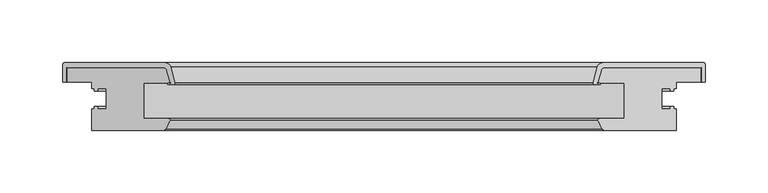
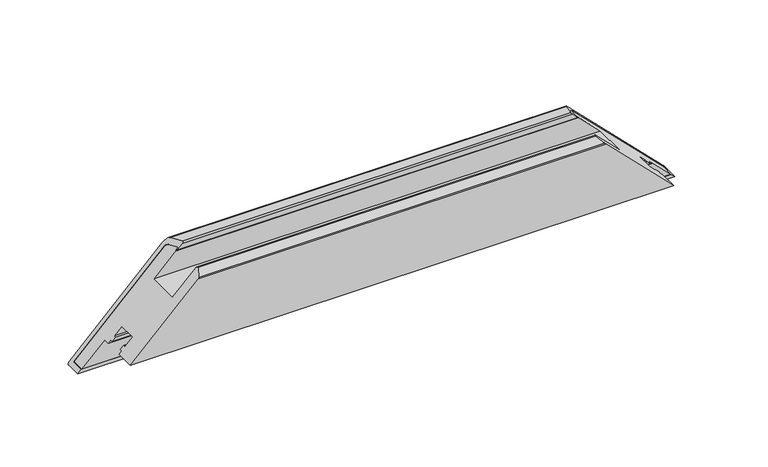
"""IFC4 building model written with IfcOpenShell, lengths in millimetres: proxy geometry, Weiku - Montante - Folha 02.2.01.018 : Weiku - Montante - Folha 02.2.01.018."""

from ifc_helpers import new_model, si_unit, frame, origin, place, context, project, spatial, polyline, ellipse_curve, source, transform, mapped, element, save
from ifc_brep_helpers import plane_surface, cylinder_surface, revolved_surface, advanced_brep


def generic_models_db991731(model_context):
    return source(origin(), model_context, "Body", "AdvancedBrep", [
        advanced_brep(
        [(253.0, 50.0, 0.0), (175.9997332, 50.0, 77.0002668), (-175.9997332, 50.0, 77.0002668), (-253.0, 50.0, 0.0), (173.1019557, 47.7764571, 79.8980443), (-173.1019557, 47.7764571, 79.8980443), (170.5170371, 38.1294095, 82.4829629), (-170.5170371, 38.1294095, 82.4829629), (171.0, 37.5, 82.0), (-171.0, 37.5, 82.0), (171.8560102, 37.5, 81.1439898), (-171.8560102, 37.5, 81.1439898), (171.8560102, 36.5, 81.1439898), (-171.8560102, 36.5, 81.1439898), (167.2425588, 36.5, 85.7574412), (-167.2425588, 36.5, 85.7574412), (166.2766329, 37.758819, 86.7233671), (-166.2766329, 37.758819, 86.7233671), (169.6354501, 50.2940952, 83.3645499), (-169.6354501, 50.2940952, 83.3645499), (174.4650792, 54.0, 78.5349208), (-174.4650792, 54.0, 78.5349208), (254.0, 54.0, -1.0), (-254.0, 54.0, -1.0), (256.0, 52.0, -3.0), (-256.0, 52.0, -3.0), (256.0, 38.5, -3.0), (-256.0, 38.5, -3.0), (253.0, 38.5, 0.0), (-253.0, 38.5, 0.0)],
        [
            (0, 1),
            (1, 2),
            (2, 3),
            (3, 0),
            (1, 4, ellipse_curve(frame((175.9997332, 47.0, 77.0002668), z_axis=(0.707106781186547, 0.0, 0.7071067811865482), x_axis=(0.7071067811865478, 0.0, -0.707106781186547)), 4.2426407, 3.0)),
            (4, 5),
            (5, 2, ellipse_curve(frame((-175.9997332, 47.0, 77.0002668), z_axis=(-0.7071067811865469, 0.0, 0.7071067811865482), x_axis=(0.707106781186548, 0.0, 0.7071067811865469)), 4.2426407, 3.0)),
            (4, 6),
            (6, 7),
            (7, 5),
            (6, 8, ellipse_curve(frame((171.0, 38.0, 82.0), z_axis=(0.707106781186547, 0.0, 0.7071067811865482), x_axis=(0.7071067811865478, 0.0, -0.707106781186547)), 0.7071068, 0.5)),
            (8, 9),
            (9, 7, ellipse_curve(frame((-171.0, 38.0, 82.0), z_axis=(-0.7071067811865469, 0.0, 0.7071067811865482), x_axis=(0.707106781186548, 0.0, 0.7071067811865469)), 0.7071068, 0.5)),
            (8, 10),
            (10, 11),
            (11, 9),
            (10, 12, ellipse_curve(frame((171.8560102, 37.0, 81.1439898), z_axis=(-0.707106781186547, 0.0, -0.7071067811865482), x_axis=(-0.7071067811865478, 0.0, 0.707106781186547)), 0.7071068, 0.5)),
            (12, 13),
            (13, 11, ellipse_curve(frame((-171.8560102, 37.0, 81.1439898), z_axis=(0.7071067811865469, 0.0, -0.7071067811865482), x_axis=(-0.707106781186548, 0.0, -0.7071067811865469)), 0.7071068, 0.5)),
            (12, 14),
            (14, 15),
            (15, 13),
            (14, 16, ellipse_curve(frame((167.2425588, 37.5, 85.7574412), z_axis=(-0.707106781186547, 0.0, -0.7071067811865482), x_axis=(-0.7071067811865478, 0.0, 0.707106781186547)), 1.4142136, 1.0)),
            (16, 17),
            (17, 15, ellipse_curve(frame((-167.2425588, 37.5, 85.7574412), z_axis=(0.7071067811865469, 0.0, -0.7071067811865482), x_axis=(-0.707106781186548, 0.0, -0.7071067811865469)), 1.4142136, 1.0)),
            (16, 18),
            (18, 19),
            (19, 17),
            (18, 20, ellipse_curve(frame((174.4650792, 49.0, 78.5349208), z_axis=(-0.707106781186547, 0.0, -0.7071067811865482), x_axis=(-0.7071067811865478, 0.0, 0.707106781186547)), 7.0710678, 5.0)),
            (20, 21),
            (21, 19, ellipse_curve(frame((-174.4650792, 49.0, 78.5349208), z_axis=(0.7071067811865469, 0.0, -0.7071067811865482), x_axis=(-0.707106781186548, 0.0, -0.7071067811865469)), 7.0710678, 5.0)),
            (20, 22),
            (22, 23),
            (23, 21),
            (22, 24, ellipse_curve(frame((254.0, 52.0, -1.0), z_axis=(-0.707106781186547, 0.0, -0.7071067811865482), x_axis=(-0.7071067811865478, 0.0, 0.707106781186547)), 2.8284271, 2.0)),
            (24, 25),
            (25, 23, ellipse_curve(frame((-254.0, 52.0, -1.0), z_axis=(0.7071067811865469, 0.0, -0.7071067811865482), x_axis=(-0.707106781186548, 0.0, -0.7071067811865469)), 2.8284271, 2.0)),
            (24, 26),
            (26, 27),
            (27, 25),
            (26, 28),
            (28, 29),
            (29, 27),
            (28, 0),
            (3, 29),
        ],
        [
            plane_surface(frame((-273.0, 50.0, 0.0), z_axis=(0.0, -1.0, 0.0), x_axis=(1.0, 0.0, 0.0))),
            revolved_surface(polyline([(178.99973320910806, 50.0, 77.0002668), (-178.99973320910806, 50.0, 77.0002668)]), (-273.0, 47.0, 77.0002668), (1.0, 0.0, 0.0)),
            plane_surface(frame((-273.0, 47.7764571, 79.8980443), z_axis=(0.0, -0.2588190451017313, -0.9659258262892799), x_axis=(1.0, 0.0, 0.0))),
            revolved_surface(polyline([(171.50000001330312, 38.5, 82.0), (-171.50000001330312, 38.5, 82.0)]), (-273.0, 38.0, 82.0), (1.0, 0.0, 0.0)),
            plane_surface(frame((-273.0, 37.5, 82.0), z_axis=(0.0, 1.0, 0.0), x_axis=(1.0, 0.0, 0.0))),
            cylinder_surface(frame((-273.0, 37.0, 81.1439898), z_axis=(-1.0, 0.0, 0.0), x_axis=(0.0, 1.0, 0.0)), 0.5),
            plane_surface(frame((-273.0, 36.5, 81.1439898), z_axis=(0.0, -1.0, 0.0), x_axis=(1.0, 0.0, 0.0))),
            cylinder_surface(frame((-273.0, 37.5, 85.7574412), z_axis=(-1.0, 0.0, 0.0), x_axis=(0.0, 1.0, 0.0)), 1.0),
            plane_surface(frame((-273.0, 37.758819, 86.7233671), z_axis=(0.0, 0.25881904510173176, 0.9659258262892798), x_axis=(1.0, 0.0, 0.0))),
            cylinder_surface(frame((-273.0, 49.0, 78.5349208), z_axis=(-1.0, 0.0, 0.0), x_axis=(0.0, 1.0, 0.0)), 5.0),
            plane_surface(frame((-273.0, 54.0, 78.5349208), z_axis=(0.0, 1.0, 0.0), x_axis=(1.0, 0.0, 0.0))),
            cylinder_surface(frame((-273.0, 52.0, -1.0), z_axis=(-1.0, 0.0, 0.0), x_axis=(0.0, 1.0, 0.0)), 2.0),
            plane_surface(frame((-273.0, 52.0, -3.0), z_axis=(0.0, 0.0, -1.0), x_axis=(1.0, 0.0, 0.0))),
            plane_surface(frame((-273.0, 38.5, -3.0), z_axis=(0.0, -1.0, 0.0), x_axis=(1.0, 0.0, 0.0))),
            plane_surface(frame((-273.0, 38.5, 0.0), z_axis=(0.0, 0.0, 1.0), x_axis=(1.0, 0.0, 0.0))),
            plane_surface(frame((163.0, 0.0, 90.0), z_axis=(0.707106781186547, 0.0, 0.7071067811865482), x_axis=(0.0, 1.0, 0.0))),
            plane_surface(frame((-281.2842712, 0.0, -28.2842712), z_axis=(-0.7071067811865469, 0.0, 0.7071067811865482), x_axis=(0.0, 1.0, 0.0))),
        ],
        [
            (0, [[1, 2, 3, 4]]),
            (1, [[5, 6, 7, -2]]),
            (2, [[8, 9, 10, -6]]),
            (3, [[11, 12, 13, -9]]),
            (4, [[14, 15, 16, -12]]),
            (5, [[17, 18, 19, -15]]),
            (6, [[20, 21, 22, -18]]),
            (7, [[23, 24, 25, -21]]),
            (8, [[26, 27, 28, -24]]),
            (9, [[29, 30, 31, -27]]),
            (10, [[32, 33, 34, -30]]),
            (11, [[35, 36, 37, -33]]),
            (12, [[38, 39, 40, -36]]),
            (13, [[41, 42, 43, -39]]),
            (14, [[44, -4, 45, -42]]),
            (15, [[-1, -44, -41, -38, -35, -32, -29, -26, -23, -20, -17, -14, -11, -8, -5]]),
            (16, [[-3, -7, -10, -13, -16, -19, -22, -25, -28, -31, -34, -37, -40, -43, -45]]),
        ],
    ),
        advanced_brep(
        [(253.0, 50.0, 0.0), (-253.0, 50.0, 0.0), (-175.9997332, 50.0, 77.0002668), (175.9997332, 50.0, 77.0002668), (253.0, 38.5, 0.0), (-253.0, 38.5, 0.0), (-174.9872264, 0.0, 78.0127736), (-233.0, 0.0, 20.0), (233.0, 0.0, 20.0), (174.9872264, 0.0, 78.0127736), (-233.0, 38.5, 20.0), (-233.0, 33.1, 20.0), (-230.8, 33.1, 22.2), (-230.8, 31.1, 22.2), (-228.0, 31.1, 25.0), (-228.0, 33.1, 25.0), (-221.5, 33.1, 31.5), (-221.5, 16.9, 31.5), (-228.0, 16.9, 25.0), (-228.0, 18.9, 25.0), (-230.8, 18.9, 22.2), (-230.8, 16.9, 22.2), (-233.0, 16.9, 20.0), (-174.0932657, 0.5518546, 78.9067343), (-170.5512796, 7.617411, 82.4487204), (-171.7134285, 9.5, 81.2865715), (-191.5, 9.5, 61.5), (-191.5, 37.5, 61.5), (-171.0, 37.5, 82.0), (-170.5170371, 38.1294095, 82.4829629), (-173.1019557, 47.7764571, 79.8980443), (173.1019557, 47.7764571, 79.8980443), (170.5170371, 38.1294095, 82.4829629), (171.0, 37.5, 82.0), (191.5, 37.5, 61.5), (191.5, 9.5, 61.5), (171.7134285, 9.5, 81.2865715), (170.5512796, 7.617411, 82.4487204), (174.0932657, 0.5518546, 78.9067343), (233.0, 16.9, 20.0), (230.8, 16.9, 22.2), (230.8, 18.9, 22.2), (228.0, 18.9, 25.0), (228.0, 16.9, 25.0), (221.5, 16.9, 31.5), (221.5, 33.1, 31.5), (228.0, 33.1, 25.0), (228.0, 31.1, 25.0), (230.8, 31.1, 22.2), (230.8, 33.1, 22.2), (233.0, 33.1, 20.0), (233.0, 38.5, 20.0)],
        [
            (0, 1),
            (1, 2),
            (2, 3),
            (3, 0),
            (0, 4),
            (4, 5),
            (5, 1),
            (6, 7),
            (7, 8),
            (8, 9),
            (9, 6),
            (5, 10),
            (10, 11),
            (11, 12),
            (12, 13),
            (13, 14),
            (14, 15),
            (15, 16),
            (16, 17),
            (17, 18),
            (18, 19),
            (19, 20),
            (20, 21),
            (21, 22),
            (22, 7),
            (6, 23, ellipse_curve(frame((-174.9872264, 1.0, 78.0127736), z_axis=(-0.7071067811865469, 0.0, 0.7071067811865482), x_axis=(-0.707106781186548, 0.0, -0.7071067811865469)), 1.4142136, 1.0)),
            (23, 24),
            (24, 25, ellipse_curve(frame((-171.7134285, 8.2, 81.2865715), z_axis=(-0.7071067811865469, 0.0, 0.7071067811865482), x_axis=(-0.707106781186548, 0.0, -0.7071067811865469)), 1.8384776, 1.3)),
            (25, 26),
            (26, 27),
            (27, 28),
            (28, 29, ellipse_curve(frame((-171.0, 38.0, 82.0), z_axis=(-0.7071067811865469, 0.0, 0.7071067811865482), x_axis=(-0.707106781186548, 0.0, -0.7071067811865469)), 0.7071068, 0.5)),
            (29, 30),
            (30, 2, ellipse_curve(frame((-175.9997332, 47.0, 77.0002668), z_axis=(-0.7071067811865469, 0.0, 0.7071067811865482), x_axis=(-0.707106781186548, 0.0, -0.7071067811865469)), 4.2426407, 3.0)),
            (3, 31, ellipse_curve(frame((175.9997332, 47.0, 77.0002668), z_axis=(0.707106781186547, 0.0, 0.7071067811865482), x_axis=(-0.7071067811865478, 0.0, 0.707106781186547)), 4.2426407, 3.0)),
            (31, 32),
            (32, 33, ellipse_curve(frame((171.0, 38.0, 82.0), z_axis=(0.707106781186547, 0.0, 0.7071067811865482), x_axis=(-0.7071067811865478, 0.0, 0.707106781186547)), 0.7071068, 0.5)),
            (33, 34),
            (34, 35),
            (35, 36),
            (36, 37, ellipse_curve(frame((171.7134285, 8.2, 81.2865715), z_axis=(0.707106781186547, 0.0, 0.7071067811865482), x_axis=(-0.7071067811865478, 0.0, 0.707106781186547)), 1.8384776, 1.3)),
            (37, 38),
            (38, 9, ellipse_curve(frame((174.9872264, 1.0, 78.0127736), z_axis=(0.707106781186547, 0.0, 0.7071067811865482), x_axis=(-0.7071067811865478, 0.0, 0.707106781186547)), 1.4142136, 1.0)),
            (8, 39),
            (39, 40),
            (40, 41),
            (41, 42),
            (42, 43),
            (43, 44),
            (44, 45),
            (45, 46),
            (46, 47),
            (47, 48),
            (48, 49),
            (49, 50),
            (50, 51),
            (51, 4),
            (38, 23),
            (37, 24),
            (36, 25),
            (35, 26),
            (34, 27),
            (33, 28),
            (32, 29),
            (31, 30),
            (51, 10),
            (50, 11),
            (49, 12),
            (48, 13),
            (47, 14),
            (46, 15),
            (45, 16),
            (44, 17),
            (43, 18),
            (42, 19),
            (41, 20),
            (40, 21),
            (39, 22),
        ],
        [
            plane_surface(frame((-253.0, 50.0, 77.0002668), z_axis=(0.0, 1.0, 0.0), x_axis=(1.0, 0.0, 0.0))),
            plane_surface(frame((-253.0, 50.0, 0.0), z_axis=(0.0, 0.0, -1.0), x_axis=(1.0, 0.0, 0.0))),
            plane_surface(frame((-253.0, 0.0, 20.0), z_axis=(0.0, -1.0, 0.0), x_axis=(1.0, 0.0, 0.0))),
            plane_surface(frame((-281.2842712, 0.0, -28.2842712), z_axis=(-0.7071067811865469, 0.0, 0.7071067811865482), x_axis=(0.0, 1.0, 0.0))),
            plane_surface(frame((163.0, 0.0, 90.0), z_axis=(0.707106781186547, 0.0, 0.7071067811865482), x_axis=(0.0, 1.0, 0.0))),
            cylinder_surface(frame((-253.0, 1.0, 78.0127736), z_axis=(-1.0, 0.0, 0.0), x_axis=(0.0, 1.0, 0.0)), 1.0),
            plane_surface(frame((-253.0, 0.5518546, 78.9067343), z_axis=(0.0, -0.4481453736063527, 0.8939606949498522), x_axis=(1.0, 0.0, 0.0))),
            cylinder_surface(frame((-253.0, 8.2, 81.2865715), z_axis=(-1.0, 0.0, 0.0), x_axis=(0.0, 1.0, 0.0)), 1.3),
            plane_surface(frame((-253.0, 9.5, 81.2865715), z_axis=(0.0, 1.0, 0.0), x_axis=(1.0, 0.0, 0.0))),
            plane_surface(frame((-253.0, 9.5, 61.5), z_axis=(0.0, 0.0, 1.0), x_axis=(1.0, 0.0, 0.0))),
            plane_surface(frame((-253.0, 37.5, 61.5), z_axis=(0.0, -1.0, 0.0), x_axis=(1.0, 0.0, 0.0))),
            cylinder_surface(frame((-253.0, 38.0, 82.0), z_axis=(-1.0, 0.0, 0.0), x_axis=(0.0, 1.0, 0.0)), 0.5),
            plane_surface(frame((-253.0, 38.1294095, 82.4829629), z_axis=(0.0, 0.2588190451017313, 0.9659258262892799), x_axis=(1.0, 0.0, 0.0))),
            cylinder_surface(frame((-253.0, 47.0, 77.0002668), z_axis=(-1.0, 0.0, 0.0), x_axis=(0.0, 1.0, 0.0)), 3.0),
            plane_surface(frame((-253.0, 38.5, 0.0), z_axis=(0.0, -1.0, 0.0), x_axis=(1.0, 0.0, 0.0))),
            plane_surface(frame((-253.0, 38.5, 20.0), z_axis=(0.0, 0.0, -1.0), x_axis=(1.0, 0.0, 0.0))),
            plane_surface(frame((-253.0, 33.1, 20.0), z_axis=(0.0, -1.0, 0.0), x_axis=(1.0, 0.0, 0.0))),
            plane_surface(frame((-253.0, 33.1, 22.2), z_axis=(0.0, 0.0, -1.0), x_axis=(1.0, 0.0, 0.0))),
            plane_surface(frame((-253.0, 31.1, 22.2), z_axis=(0.0, -1.0, 0.0), x_axis=(1.0, 0.0, 0.0))),
            plane_surface(frame((-253.0, 31.1, 25.0), z_axis=(0.0, 0.0, 1.0), x_axis=(1.0, 0.0, 0.0))),
            plane_surface(frame((-253.0, 33.1, 25.0), z_axis=(0.0, -1.0, 0.0), x_axis=(1.0, 0.0, 0.0))),
            plane_surface(frame((-253.0, 33.1, 31.5), z_axis=(0.0, 0.0, -1.0), x_axis=(1.0, 0.0, 0.0))),
            plane_surface(frame((-253.0, 16.9, 31.5), z_axis=(0.0, 1.0, 0.0), x_axis=(1.0, 0.0, 0.0))),
            plane_surface(frame((-253.0, 16.9, 25.0), z_axis=(0.0, 0.0, 1.0), x_axis=(1.0, 0.0, 0.0))),
            plane_surface(frame((-253.0, 18.9, 25.0), z_axis=(0.0, 1.0, 0.0), x_axis=(1.0, 0.0, 0.0))),
            plane_surface(frame((-253.0, 18.9, 22.2), z_axis=(0.0, 0.0, -1.0), x_axis=(1.0, 0.0, 0.0))),
            plane_surface(frame((-253.0, 16.9, 22.2), z_axis=(0.0, 1.0, 0.0), x_axis=(1.0, 0.0, 0.0))),
            plane_surface(frame((-253.0, 16.9, 20.0), z_axis=(0.0, 0.0, -1.0), x_axis=(1.0, 0.0, 0.0))),
        ],
        [
            (0, [[1, 2, 3, 4]]),
            (1, [[-1, 5, 6, 7]]),
            (2, [[8, 9, 10, 11]]),
            (3, [[-2, -7, 12, 13, 14, 15, 16, 17, 18, 19, 20, 21, 22, 23, 24, 25, -8, 26, 27, 28, 29, 30, 31, 32, 33, 34]]),
            (4, [[-4, 35, 36, 37, 38, 39, 40, 41, 42, 43, -10, 44, 45, 46, 47, 48, 49, 50, 51, 52, 53, 54, 55, 56, 57, -5]]),
            (5, [[-26, -11, -43, 58]]),
            (6, [[-27, -58, -42, 59]]),
            (7, [[-28, -59, -41, 60]]),
            (8, [[-29, -60, -40, 61]]),
            (9, [[-30, -61, -39, 62]]),
            (10, [[-31, -62, -38, 63]]),
            (11, [[-32, -63, -37, 64]]),
            (12, [[-33, -64, -36, 65]]),
            (13, [[-34, -65, -35, -3]]),
            (14, [[-6, -57, 66, -12]]),
            (15, [[-13, -66, -56, 67]]),
            (16, [[-14, -67, -55, 68]]),
            (17, [[-15, -68, -54, 69]]),
            (18, [[-16, -69, -53, 70]]),
            (19, [[-17, -70, -52, 71]]),
            (20, [[-18, -71, -51, 72]]),
            (21, [[-19, -72, -50, 73]]),
            (22, [[-20, -73, -49, 74]]),
            (23, [[-21, -74, -48, 75]]),
            (24, [[-22, -75, -47, 76]]),
            (25, [[-23, -76, -46, 77]]),
            (26, [[-24, -77, -45, 78]]),
            (27, [[-25, -78, -44, -9]]),
        ],
    ),
    ])


if __name__ == "__main__":
    model = new_model("IFC4")
    model_context = context("Model", 3, world=origin())
    ifc_project = project(units=[si_unit("LENGTHUNIT", "METRE", prefix="MILLI")], contexts=[model_context])
    site = spatial("IfcSite", under=ifc_project)
    building = spatial("IfcBuilding", under=site)
    placement = place(None, origin())
    generic_models_shape = generic_models_db991731(model_context)
    element("IfcBuildingElementProxy", 1, Name="Weiku - Montante - Folha 02.2.01.018 : Weiku - Montante - Folha 02.2.01.018", ObjectType="Weiku - Montante - Folha 02.2.01.018 : Weiku - Montante - Folha 02.2.01.018", at=placement, inside=building, context=model_context, shape_type="MappedRepresentation", body=[
        mapped(generic_models_shape, transform((0.0, 0.0, 0.0), x_axis=(1.0, 0.0, 0.0), y_axis=(0.0, 1.0, 0.0), z_axis=(0.0, 0.0, 1.0))),
    ])
    save(model, "model.ifc")
